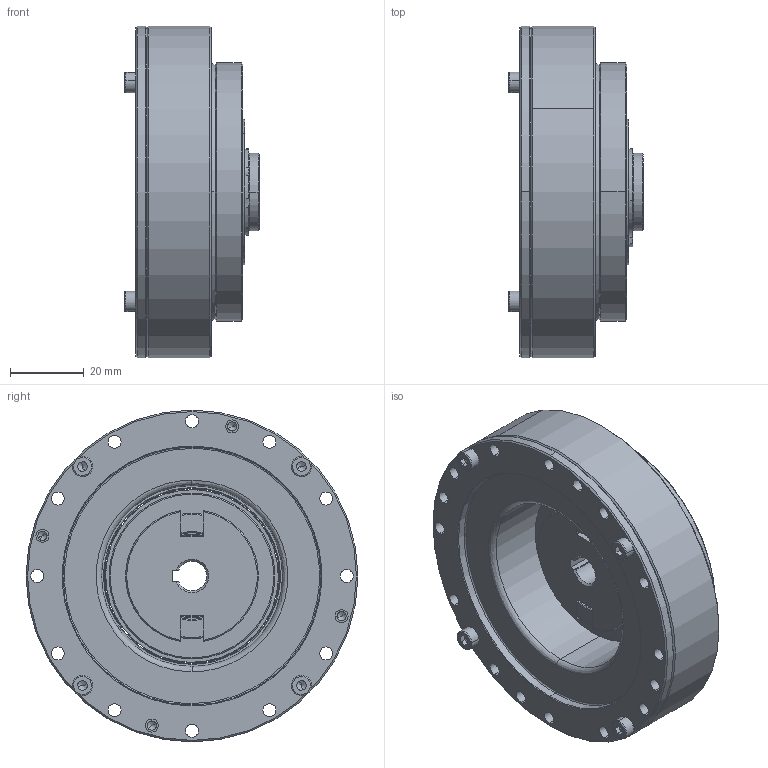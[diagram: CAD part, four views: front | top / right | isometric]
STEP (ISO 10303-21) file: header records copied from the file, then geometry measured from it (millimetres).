
FILE_DESCRIPTION (( 'STEP AP203' ), '1' );
FILE_NAME ('LHS-20-XXX-C-II.step', '2025-01-07T06:18:00', ( '' ), ( '' ), 'SwSTEP 2.0', 'SolidWorks 2023', '' );
FILE_SCHEMA (( 'CONFIG_CONTROL_DESIGN' ));
Length unit declared in the file: metre
Products named in the file (1): LHS-20-XXX-C-II
Bounding box: 36.5 x 90 x 90 mm (x, y, z)
Volume: 105678.1 mm3; surface area: 86367.3 mm2
Topology: 44 solids, 44 shells, 921 faces, 2281 edges, 1349 vertices
Faces by surface type: cylinder 373, plane 252, cone 174, bspline 122
Entity records: 30732 total; most frequent: CARTESIAN_POINT 9218, DIRECTION 4772, ORIENTED_EDGE 4234, EDGE_CURVE 2117, AXIS2_PLACEMENT_3D 1957, VERTEX_POINT 1349, CIRCLE 1157, EDGE_LOOP 1126
